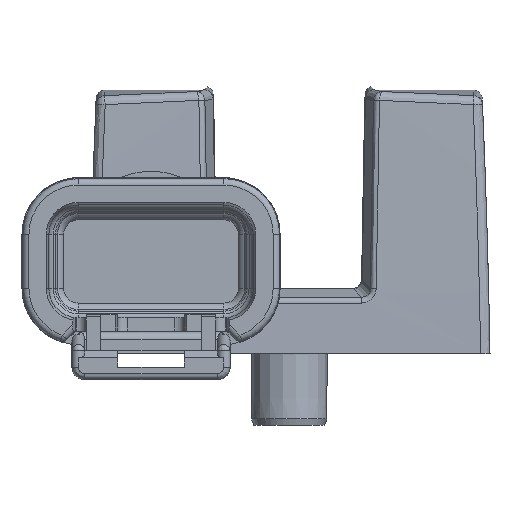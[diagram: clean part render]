
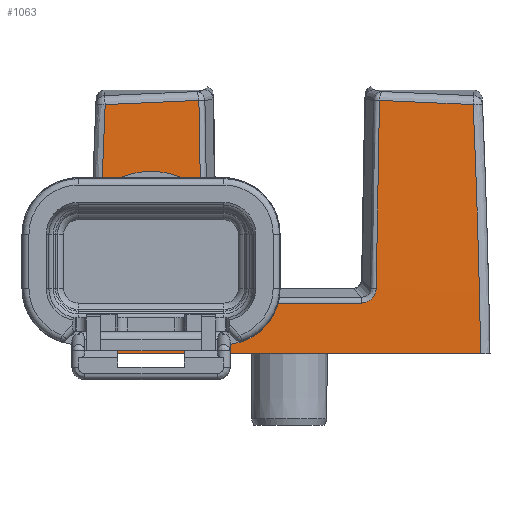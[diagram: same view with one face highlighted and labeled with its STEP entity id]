
A CAD part, front view. The second image highlights one B-rep face of the part: STEP entity #1063.
In plain terms, the highlighted cylindrical face has radius 800 mm (diameter 1600 mm), a partial arc.
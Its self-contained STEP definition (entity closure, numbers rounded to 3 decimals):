
#684=CYLINDRICAL_SURFACE('',#8981,800.);
#896=B_SPLINE_CURVE_WITH_KNOTS('',3,(#12576,#12577,#12578,#12579,#12580,
#12581,#12582,#12583,#12584,#12585,#12586,#12587,#12588,#12589,#12590,#12591),
 .UNSPECIFIED.,.F.,.F.,(4,3,3,3,3,4),(0.,0.219,0.438,
0.65,0.86,1.),.UNSPECIFIED.);
#897=B_SPLINE_CURVE_WITH_KNOTS('',3,(#12594,#12595,#12596,#12597,#12598,
#12599,#12600,#12601,#12602,#12603,#12604,#12605,#12606),.UNSPECIFIED.,
 .F.,.F.,(4,3,3,3,4),(0.,0.084,0.496,0.909,
1.),.UNSPECIFIED.);
#898=B_SPLINE_CURVE_WITH_KNOTS('',3,(#12608,#12609,#12610,#12611),
 .UNSPECIFIED.,.F.,.F.,(4,4),(0.,1.),.UNSPECIFIED.);
#899=B_SPLINE_CURVE_WITH_KNOTS('',3,(#12613,#12614,#12615,#12616,#12617,
#12618,#12619),.UNSPECIFIED.,.F.,.F.,(4,3,4),(0.,0.519,1.),
 .UNSPECIFIED.);
#900=B_SPLINE_CURVE_WITH_KNOTS('',3,(#12624,#12625,#12626,#12627,#12628,
#12629,#12630),.UNSPECIFIED.,.F.,.F.,(4,3,4),(0.,0.481,1.),
 .UNSPECIFIED.);
#901=B_SPLINE_CURVE_WITH_KNOTS('',3,(#12632,#12633,#12634,#12635),
 .UNSPECIFIED.,.F.,.F.,(4,4),(0.,1.),.UNSPECIFIED.);
#902=B_SPLINE_CURVE_WITH_KNOTS('',3,(#12637,#12638,#12639,#12640,#12641,
#12642,#12643,#12644,#12645,#12646,#12647,#12648,#12649),.UNSPECIFIED.,
 .F.,.F.,(4,3,3,3,4),(0.,0.091,0.504,0.916,
1.),.UNSPECIFIED.);
#903=B_SPLINE_CURVE_WITH_KNOTS('',3,(#12651,#12652,#12653,#12654,#12655,
#12656,#12657,#12658,#12659,#12660,#12661,#12662,#12663,#12664,#12665,#12666),
 .UNSPECIFIED.,.F.,.F.,(4,3,3,3,3,4),(0.,0.222,0.446,
0.66,0.869,1.),.UNSPECIFIED.);
#1063=ADVANCED_FACE('',(#1812),#684,.T.);
#1812=FACE_OUTER_BOUND('',#2321,.T.);
#2321=EDGE_LOOP('',(#4244,#4245,#4246,#4247,#4248,#4249,#4250,#4251,#4252,
#4253,#4254,#4255));
#2885=LINE('',#12478,#3547);
#2902=LINE('',#12668,#3564);
#3547=VECTOR('',#9915,1.);
#3564=VECTOR('',#9958,1.);
#4244=ORIENTED_EDGE('',*,*,#7647,.T.);
#4245=ORIENTED_EDGE('',*,*,#7648,.T.);
#4246=ORIENTED_EDGE('',*,*,#7649,.T.);
#4247=ORIENTED_EDGE('',*,*,#7650,.T.);
#4248=ORIENTED_EDGE('',*,*,#7651,.T.);
#4249=ORIENTED_EDGE('',*,*,#7620,.T.);
#4250=ORIENTED_EDGE('',*,*,#7652,.T.);
#4251=ORIENTED_EDGE('',*,*,#7653,.T.);
#4252=ORIENTED_EDGE('',*,*,#7654,.T.);
#4253=ORIENTED_EDGE('',*,*,#7655,.T.);
#4254=ORIENTED_EDGE('',*,*,#7656,.T.);
#4255=ORIENTED_EDGE('',*,*,#7657,.T.);
#6823=VERTEX_POINT('',#12477);
#6824=VERTEX_POINT('',#12479);
#6846=VERTEX_POINT('',#12592);
#6847=VERTEX_POINT('',#12593);
#6848=VERTEX_POINT('',#12607);
#6849=VERTEX_POINT('',#12612);
#6850=VERTEX_POINT('',#12620);
#6851=VERTEX_POINT('',#12623);
#6852=VERTEX_POINT('',#12631);
#6853=VERTEX_POINT('',#12636);
#6854=VERTEX_POINT('',#12650);
#6855=VERTEX_POINT('',#12667);
#7620=EDGE_CURVE('',#6824,#6823,#2885,.T.);
#7647=EDGE_CURVE('',#6846,#6847,#896,.T.);
#7648=EDGE_CURVE('',#6847,#6848,#897,.T.);
#7649=EDGE_CURVE('',#6848,#6849,#898,.T.);
#7650=EDGE_CURVE('',#6849,#6850,#899,.T.);
#7651=EDGE_CURVE('',#6850,#6824,#8929,.T.);
#7652=EDGE_CURVE('',#6823,#6851,#8930,.T.);
#7653=EDGE_CURVE('',#6851,#6852,#900,.T.);
#7654=EDGE_CURVE('',#6852,#6853,#901,.T.);
#7655=EDGE_CURVE('',#6853,#6854,#902,.T.);
#7656=EDGE_CURVE('',#6854,#6855,#903,.T.);
#7657=EDGE_CURVE('',#6855,#6846,#2902,.T.);
#8929=ELLIPSE('',#8979,1130.841,800.);
#8930=ELLIPSE('',#8980,1130.841,800.);
#8979=AXIS2_PLACEMENT_3D('',#12621,#9954,#9955);
#8980=AXIS2_PLACEMENT_3D('',#12622,#9956,#9957);
#8981=AXIS2_PLACEMENT_3D('',#12669,#9959,#9960);
#9915=DIRECTION('',(1.,0.,0.));
#9954=DIRECTION('',(0.707,-0.707,0.));
#9955=DIRECTION('',(-0.707,-0.707,0.));
#9956=DIRECTION('',(-0.707,-0.707,0.));
#9957=DIRECTION('',(-0.707,0.707,0.));
#9958=DIRECTION('',(-1.,0.,0.));
#9959=DIRECTION('',(-1.,0.,0.));
#9960=DIRECTION('',(0.,0.,1.));
#12477=CARTESIAN_POINT('',(15.375,-16.25,0.));
#12478=CARTESIAN_POINT('',(-16.125,-16.25,0.));
#12479=CARTESIAN_POINT('',(-15.375,-16.25,0.));
#12576=CARTESIAN_POINT('',(-5.789,-16.169,4.064));
#12577=CARTESIAN_POINT('',(-5.925,-16.169,4.064));
#12578=CARTESIAN_POINT('',(-6.063,-16.168,4.086));
#12579=CARTESIAN_POINT('',(-6.191,-16.167,4.13));
#12580=CARTESIAN_POINT('',(-6.32,-16.166,4.175));
#12581=CARTESIAN_POINT('',(-6.443,-16.165,4.243));
#12582=CARTESIAN_POINT('',(-6.549,-16.163,4.328));
#12583=CARTESIAN_POINT('',(-6.651,-16.161,4.411));
#12584=CARTESIAN_POINT('',(-6.74,-16.158,4.514));
#12585=CARTESIAN_POINT('',(-6.809,-16.156,4.626));
#12586=CARTESIAN_POINT('',(-6.878,-16.153,4.737));
#12587=CARTESIAN_POINT('',(-6.928,-16.15,4.862));
#12588=CARTESIAN_POINT('',(-6.957,-16.147,4.989));
#12589=CARTESIAN_POINT('',(-6.976,-16.145,5.075));
#12590=CARTESIAN_POINT('',(-6.987,-16.143,5.163));
#12591=CARTESIAN_POINT('',(-6.988,-16.141,5.25));
#12592=CARTESIAN_POINT('',(-5.789,-16.169,4.064));
#12593=CARTESIAN_POINT('',(-6.988,-16.141,5.25));
#12594=CARTESIAN_POINT('',(-6.988,-16.141,5.25));
#12595=CARTESIAN_POINT('',(-6.995,-16.131,5.67));
#12596=CARTESIAN_POINT('',(-7.003,-16.121,6.089));
#12597=CARTESIAN_POINT('',(-7.01,-16.11,6.508));
#12598=CARTESIAN_POINT('',(-7.046,-16.057,8.58));
#12599=CARTESIAN_POINT('',(-7.082,-15.996,10.651));
#12600=CARTESIAN_POINT('',(-7.118,-15.927,12.723));
#12601=CARTESIAN_POINT('',(-7.154,-15.858,14.794));
#12602=CARTESIAN_POINT('',(-7.19,-15.78,16.865));
#12603=CARTESIAN_POINT('',(-7.226,-15.695,18.935));
#12604=CARTESIAN_POINT('',(-7.234,-15.676,19.393));
#12605=CARTESIAN_POINT('',(-7.242,-15.657,19.851));
#12606=CARTESIAN_POINT('',(-7.25,-15.637,20.309));
#12607=CARTESIAN_POINT('',(-7.25,-15.637,20.309));
#12608=CARTESIAN_POINT('',(-7.25,-15.637,20.309));
#12609=CARTESIAN_POINT('',(-7.25,-15.637,20.317));
#12610=CARTESIAN_POINT('',(-7.251,-15.637,20.324));
#12611=CARTESIAN_POINT('',(-7.251,-15.636,20.332));
#12612=CARTESIAN_POINT('',(-7.251,-15.636,20.332));
#12613=CARTESIAN_POINT('',(-7.251,-15.636,20.332));
#12614=CARTESIAN_POINT('',(-8.555,-15.638,20.293));
#12615=CARTESIAN_POINT('',(-9.858,-15.64,20.245));
#12616=CARTESIAN_POINT('',(-11.16,-15.643,20.186));
#12617=CARTESIAN_POINT('',(-12.366,-15.645,20.132));
#12618=CARTESIAN_POINT('',(-13.571,-15.648,20.069));
#12619=CARTESIAN_POINT('',(-14.776,-15.651,19.997));
#12620=CARTESIAN_POINT('',(-14.776,-15.651,19.997));
#12621=CARTESIAN_POINT('',(783.753,783.628,-13.962));
#12622=CARTESIAN_POINT('',(-783.753,783.628,-13.962));
#12623=CARTESIAN_POINT('',(14.776,-15.651,19.997));
#12624=CARTESIAN_POINT('',(14.776,-15.651,19.997));
#12625=CARTESIAN_POINT('',(13.571,-15.648,20.069));
#12626=CARTESIAN_POINT('',(12.366,-15.645,20.132));
#12627=CARTESIAN_POINT('',(11.16,-15.643,20.186));
#12628=CARTESIAN_POINT('',(9.858,-15.64,20.245));
#12629=CARTESIAN_POINT('',(8.555,-15.638,20.293));
#12630=CARTESIAN_POINT('',(7.251,-15.636,20.332));
#12631=CARTESIAN_POINT('',(7.251,-15.636,20.332));
#12632=CARTESIAN_POINT('',(7.251,-15.636,20.332));
#12633=CARTESIAN_POINT('',(7.251,-15.637,20.324));
#12634=CARTESIAN_POINT('',(7.25,-15.637,20.317));
#12635=CARTESIAN_POINT('',(7.25,-15.637,20.309));
#12636=CARTESIAN_POINT('',(7.25,-15.637,20.309));
#12637=CARTESIAN_POINT('',(7.25,-15.637,20.309));
#12638=CARTESIAN_POINT('',(7.242,-15.657,19.851));
#12639=CARTESIAN_POINT('',(7.234,-15.676,19.393));
#12640=CARTESIAN_POINT('',(7.226,-15.695,18.935));
#12641=CARTESIAN_POINT('',(7.19,-15.78,16.865));
#12642=CARTESIAN_POINT('',(7.154,-15.858,14.794));
#12643=CARTESIAN_POINT('',(7.118,-15.927,12.723));
#12644=CARTESIAN_POINT('',(7.082,-15.996,10.651));
#12645=CARTESIAN_POINT('',(7.046,-16.057,8.58));
#12646=CARTESIAN_POINT('',(7.01,-16.11,6.508));
#12647=CARTESIAN_POINT('',(7.003,-16.121,6.089));
#12648=CARTESIAN_POINT('',(6.995,-16.131,5.67));
#12649=CARTESIAN_POINT('',(6.988,-16.141,5.25));
#12650=CARTESIAN_POINT('',(6.988,-16.141,5.25));
#12651=CARTESIAN_POINT('',(6.988,-16.141,5.25));
#12652=CARTESIAN_POINT('',(6.986,-16.144,5.112));
#12653=CARTESIAN_POINT('',(6.961,-16.148,4.972));
#12654=CARTESIAN_POINT('',(6.913,-16.151,4.842));
#12655=CARTESIAN_POINT('',(6.866,-16.154,4.712));
#12656=CARTESIAN_POINT('',(6.795,-16.157,4.588));
#12657=CARTESIAN_POINT('',(6.706,-16.159,4.482));
#12658=CARTESIAN_POINT('',(6.62,-16.162,4.38));
#12659=CARTESIAN_POINT('',(6.515,-16.164,4.292));
#12660=CARTESIAN_POINT('',(6.4,-16.165,4.226));
#12661=CARTESIAN_POINT('',(6.287,-16.167,4.16));
#12662=CARTESIAN_POINT('',(6.162,-16.168,4.113));
#12663=CARTESIAN_POINT('',(6.034,-16.168,4.088));
#12664=CARTESIAN_POINT('',(5.953,-16.169,4.072));
#12665=CARTESIAN_POINT('',(5.871,-16.169,4.064));
#12666=CARTESIAN_POINT('',(5.789,-16.169,4.064));
#12667=CARTESIAN_POINT('',(5.789,-16.169,4.064));
#12668=CARTESIAN_POINT('',(16.125,-16.169,4.064));
#12669=CARTESIAN_POINT('',(16.125,783.628,-13.962));
